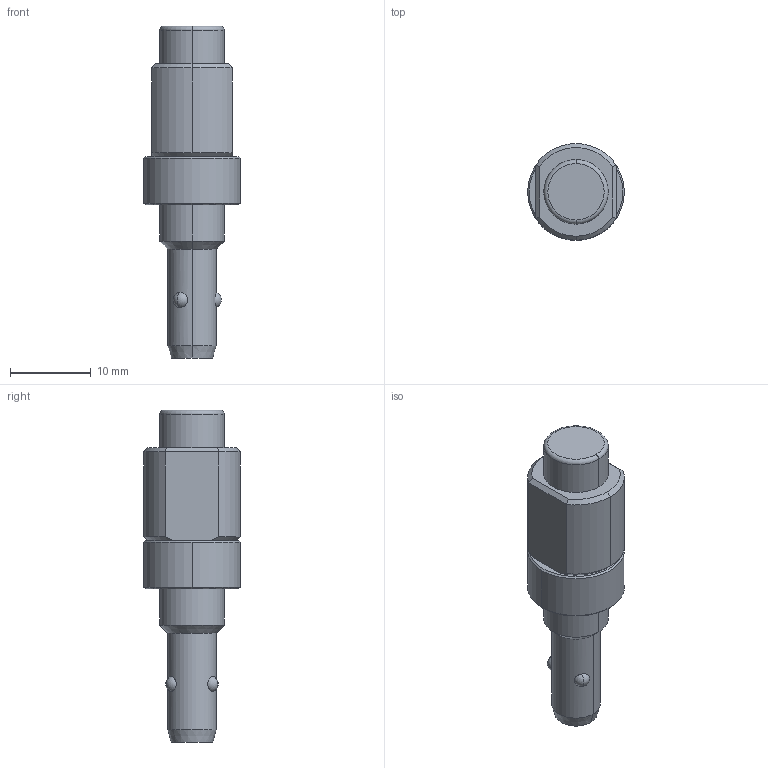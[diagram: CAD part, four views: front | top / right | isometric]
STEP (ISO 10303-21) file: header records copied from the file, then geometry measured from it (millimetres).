
FILE_DESCRIPTION (( 'STEP AP203' ), '1' );
FILE_NAME ('qcbus0608-10sus.STEP', '2021-10-21T08:18:57', ( '' ), ( '' ), 'SwSTEP 2.0', 'SolidWorks 2020', '' );
FILE_SCHEMA (( 'CONFIG_CONTROL_DESIGN' ));
Length unit declared in the file: millimetre
Products named in the file (1): qcbus0608-10sus
Bounding box: 12 x 12 x 41.2 mm (x, y, z)
Volume: 2695.8 mm3; surface area: 1456 mm2
Topology: 1 solids, 1 shells, 56 faces, 124 edges, 78 vertices
Faces by surface type: cone 18, cylinder 17, plane 11, sphere 6, bspline 2, torus 2
Entity records: 1756 total; most frequent: CARTESIAN_POINT 415, DIRECTION 287, ORIENTED_EDGE 248, EDGE_CURVE 124, AXIS2_PLACEMENT_3D 124, VERTEX_POINT 78, CIRCLE 69, EDGE_LOOP 64
